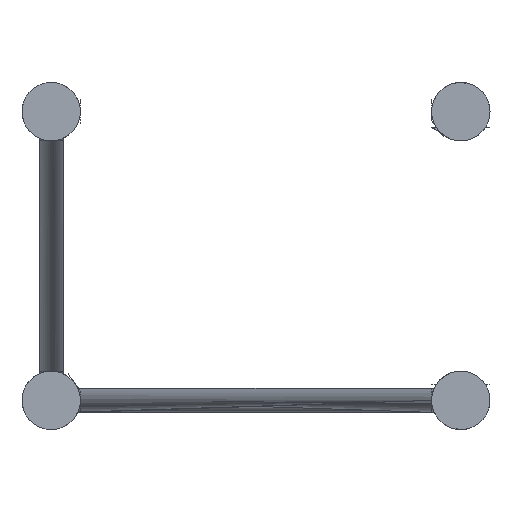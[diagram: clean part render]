
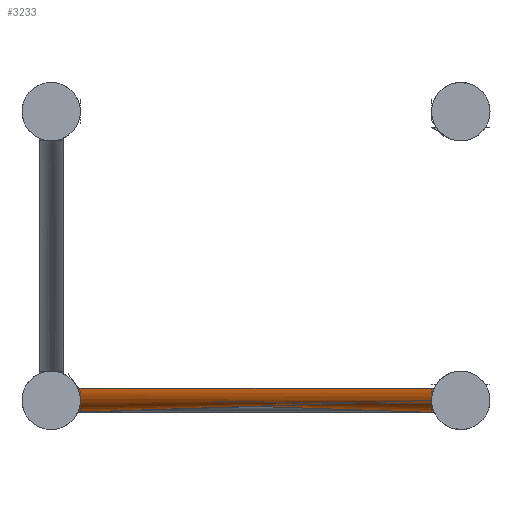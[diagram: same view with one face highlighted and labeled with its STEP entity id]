
A CAD part, left-side view. The second image highlights one B-rep face of the part: STEP entity #3233.
In plain terms, the highlighted cylindrical face has radius 10 mm (diameter 20 mm), a partial arc.
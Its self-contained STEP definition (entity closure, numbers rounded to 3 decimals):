
#70=B_SPLINE_CURVE_WITH_KNOTS('',3,(#7068,#7069,#7070,#7071,#7072,#7073,
#7074,#7075,#7076,#7077,#7078,#7079,#7080,#7081,#7082,#7083,#7084,#7085,
#7086,#7087,#7088,#7089,#7090,#7091,#7092,#7093,#7094,#7095,#7096,#7097,
#7098,#7099,#7100,#7101,#7102,#7103,#7104,#7105,#7106,#7107,#7108,#7109),
 .UNSPECIFIED.,.T.,.F.,(4,2,2,2,2,2,2,2,2,2,2,2,2,2,2,2,2,2,2,2,4),(0.,
0.632,1.263,1.652,1.847,2.042,
2.236,2.431,2.82,3.452,4.084,
4.553,4.787,5.022,5.41,5.798,
6.186,6.574,6.808,7.043,7.512),
 .UNSPECIFIED.);
#71=B_SPLINE_CURVE_WITH_KNOTS('',3,(#7111,#7112,#7113,#7114,#7115,#7116,
#7117,#7118,#7119,#7120,#7121,#7122,#7123,#7124,#7125,#7126,#7127,#7128,
#7129,#7130,#7131,#7132,#7133,#7134,#7135,#7136,#7137,#7138,#7139,#7140,
#7141,#7142,#7143,#7144,#7145,#7146,#7147,#7148,#7149,#7150,#7151,#7152),
 .UNSPECIFIED.,.T.,.F.,(4,2,2,2,2,2,2,2,2,2,2,2,2,2,2,2,2,2,2,2,4),(0.,
0.632,1.263,1.652,1.847,2.042,
2.236,2.431,2.82,3.452,4.084,
4.553,4.787,5.022,5.41,5.798,
6.186,6.574,6.808,7.043,7.512),
 .UNSPECIFIED.);
#188=FACE_BOUND('',#866,.T.);
#434=CYLINDRICAL_SURFACE('',#3594,10.);
#600=FACE_OUTER_BOUND('',#865,.T.);
#865=EDGE_LOOP('',(#2483));
#866=EDGE_LOOP('',(#2484));
#1565=VERTEX_POINT('',#7067);
#1566=VERTEX_POINT('',#7110);
#1931=EDGE_CURVE('',#1565,#1565,#70,.T.);
#1932=EDGE_CURVE('',#1566,#1566,#71,.T.);
#2483=ORIENTED_EDGE('',*,*,#1931,.F.);
#2484=ORIENTED_EDGE('',*,*,#1932,.F.);
#3233=ADVANCED_FACE('',(#600,#188),#434,.T.);
#3594=AXIS2_PLACEMENT_3D('',#7066,#4357,#4358);
#4357=DIRECTION('center_axis',(-0.719,-0.695,0.));
#4358=DIRECTION('ref_axis',(-0.695,0.719,0.));
#7066=CARTESIAN_POINT('Origin',(413.434,322.043,-239.));
#7067=CARTESIAN_POINT('',(90.561,24.15,-239.));
#7068=CARTESIAN_POINT('Ctrl Pts',(102.712,21.982,-249.));
#7069=CARTESIAN_POINT('Ctrl Pts',(104.817,21.982,-249.));
#7070=CARTESIAN_POINT('Ctrl Pts',(107.08,22.138,-248.674));
#7071=CARTESIAN_POINT('Ctrl Pts',(111.408,22.639,-247.434));
#7072=CARTESIAN_POINT('Ctrl Pts',(113.476,22.98,-246.524));
#7073=CARTESIAN_POINT('Ctrl Pts',(116.255,23.497,-244.629));
#7074=CARTESIAN_POINT('Ctrl Pts',(117.315,23.712,-243.705));
#7075=CARTESIAN_POINT('Ctrl Pts',(118.478,23.959,-242.083));
#7076=CARTESIAN_POINT('Ctrl Pts',(118.796,24.028,-241.502));
#7077=CARTESIAN_POINT('Ctrl Pts',(119.233,24.123,-240.285));
#7078=CARTESIAN_POINT('Ctrl Pts',(119.352,24.15,-239.649));
#7079=CARTESIAN_POINT('Ctrl Pts',(119.352,24.15,-238.351));
#7080=CARTESIAN_POINT('Ctrl Pts',(119.233,24.123,-237.715));
#7081=CARTESIAN_POINT('Ctrl Pts',(118.796,24.028,-236.498));
#7082=CARTESIAN_POINT('Ctrl Pts',(118.478,23.959,-235.917));
#7083=CARTESIAN_POINT('Ctrl Pts',(117.315,23.712,-234.295));
#7084=CARTESIAN_POINT('Ctrl Pts',(116.255,23.497,-233.371));
#7085=CARTESIAN_POINT('Ctrl Pts',(113.476,22.98,-231.476));
#7086=CARTESIAN_POINT('Ctrl Pts',(111.408,22.639,-230.566));
#7087=CARTESIAN_POINT('Ctrl Pts',(107.08,22.138,-229.326));
#7088=CARTESIAN_POINT('Ctrl Pts',(104.817,21.982,-229.));
#7089=CARTESIAN_POINT('Ctrl Pts',(101.148,21.982,-229.));
#7090=CARTESIAN_POINT('Ctrl Pts',(99.447,22.072,-229.185));
#7091=CARTESIAN_POINT('Ctrl Pts',(97.075,22.371,-229.898));
#7092=CARTESIAN_POINT('Ctrl Pts',(96.313,22.496,-230.207));
#7093=CARTESIAN_POINT('Ctrl Pts',(94.902,22.779,-230.968));
#7094=CARTESIAN_POINT('Ctrl Pts',(94.253,22.936,-231.419));
#7095=CARTESIAN_POINT('Ctrl Pts',(92.735,23.35,-232.772));
#7096=CARTESIAN_POINT('Ctrl Pts',(91.913,23.632,-233.871));
#7097=CARTESIAN_POINT('Ctrl Pts',(90.828,24.036,-236.339));
#7098=CARTESIAN_POINT('Ctrl Pts',(90.561,24.15,-237.707));
#7099=CARTESIAN_POINT('Ctrl Pts',(90.561,24.15,-240.293));
#7100=CARTESIAN_POINT('Ctrl Pts',(90.828,24.036,-241.661));
#7101=CARTESIAN_POINT('Ctrl Pts',(91.913,23.632,-244.129));
#7102=CARTESIAN_POINT('Ctrl Pts',(92.735,23.35,-245.228));
#7103=CARTESIAN_POINT('Ctrl Pts',(94.253,22.936,-246.581));
#7104=CARTESIAN_POINT('Ctrl Pts',(94.902,22.779,-247.032));
#7105=CARTESIAN_POINT('Ctrl Pts',(96.313,22.496,-247.793));
#7106=CARTESIAN_POINT('Ctrl Pts',(97.075,22.371,-248.102));
#7107=CARTESIAN_POINT('Ctrl Pts',(99.447,22.072,-248.815));
#7108=CARTESIAN_POINT('Ctrl Pts',(101.148,21.982,-249.));
#7109=CARTESIAN_POINT('Ctrl Pts',(102.712,21.982,-249.));
#7110=CARTESIAN_POINT('',(420.381,314.85,-239.));
#7111=CARTESIAN_POINT('Ctrl Pts',(408.23,317.018,-249.));
#7112=CARTESIAN_POINT('Ctrl Pts',(406.125,317.018,-249.));
#7113=CARTESIAN_POINT('Ctrl Pts',(403.862,316.862,-248.674));
#7114=CARTESIAN_POINT('Ctrl Pts',(399.533,316.361,-247.434));
#7115=CARTESIAN_POINT('Ctrl Pts',(397.466,316.02,-246.524));
#7116=CARTESIAN_POINT('Ctrl Pts',(394.687,315.503,-244.629));
#7117=CARTESIAN_POINT('Ctrl Pts',(393.626,315.288,-243.705));
#7118=CARTESIAN_POINT('Ctrl Pts',(392.463,315.041,-242.083));
#7119=CARTESIAN_POINT('Ctrl Pts',(392.146,314.972,-241.502));
#7120=CARTESIAN_POINT('Ctrl Pts',(391.709,314.877,-240.285));
#7121=CARTESIAN_POINT('Ctrl Pts',(391.59,314.85,-239.649));
#7122=CARTESIAN_POINT('Ctrl Pts',(391.59,314.85,-238.351));
#7123=CARTESIAN_POINT('Ctrl Pts',(391.709,314.877,-237.715));
#7124=CARTESIAN_POINT('Ctrl Pts',(392.146,314.972,-236.498));
#7125=CARTESIAN_POINT('Ctrl Pts',(392.463,315.041,-235.917));
#7126=CARTESIAN_POINT('Ctrl Pts',(393.626,315.288,-234.295));
#7127=CARTESIAN_POINT('Ctrl Pts',(394.687,315.503,-233.371));
#7128=CARTESIAN_POINT('Ctrl Pts',(397.466,316.02,-231.476));
#7129=CARTESIAN_POINT('Ctrl Pts',(399.533,316.361,-230.566));
#7130=CARTESIAN_POINT('Ctrl Pts',(403.862,316.862,-229.326));
#7131=CARTESIAN_POINT('Ctrl Pts',(406.125,317.018,-229.));
#7132=CARTESIAN_POINT('Ctrl Pts',(409.794,317.018,-229.));
#7133=CARTESIAN_POINT('Ctrl Pts',(411.495,316.928,-229.185));
#7134=CARTESIAN_POINT('Ctrl Pts',(413.866,316.629,-229.898));
#7135=CARTESIAN_POINT('Ctrl Pts',(414.629,316.504,-230.207));
#7136=CARTESIAN_POINT('Ctrl Pts',(416.04,316.221,-230.968));
#7137=CARTESIAN_POINT('Ctrl Pts',(416.688,316.064,-231.419));
#7138=CARTESIAN_POINT('Ctrl Pts',(418.207,315.65,-232.772));
#7139=CARTESIAN_POINT('Ctrl Pts',(419.029,315.368,-233.871));
#7140=CARTESIAN_POINT('Ctrl Pts',(420.114,314.964,-236.339));
#7141=CARTESIAN_POINT('Ctrl Pts',(420.381,314.85,-237.707));
#7142=CARTESIAN_POINT('Ctrl Pts',(420.381,314.85,-240.293));
#7143=CARTESIAN_POINT('Ctrl Pts',(420.114,314.964,-241.661));
#7144=CARTESIAN_POINT('Ctrl Pts',(419.029,315.368,-244.129));
#7145=CARTESIAN_POINT('Ctrl Pts',(418.207,315.65,-245.228));
#7146=CARTESIAN_POINT('Ctrl Pts',(416.688,316.064,-246.581));
#7147=CARTESIAN_POINT('Ctrl Pts',(416.04,316.221,-247.032));
#7148=CARTESIAN_POINT('Ctrl Pts',(414.629,316.504,-247.793));
#7149=CARTESIAN_POINT('Ctrl Pts',(413.866,316.629,-248.102));
#7150=CARTESIAN_POINT('Ctrl Pts',(411.495,316.928,-248.815));
#7151=CARTESIAN_POINT('Ctrl Pts',(409.794,317.018,-249.));
#7152=CARTESIAN_POINT('Ctrl Pts',(408.23,317.018,-249.));
